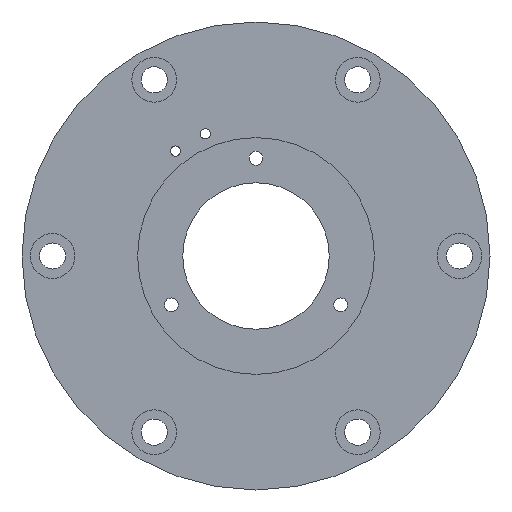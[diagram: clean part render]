
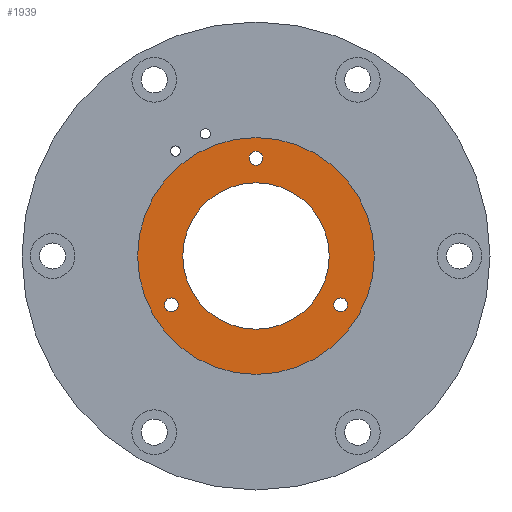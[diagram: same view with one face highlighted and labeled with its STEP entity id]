
A CAD part, left-side view. The second image highlights one B-rep face of the part: STEP entity #1939.
In plain terms, the highlighted planar face has unit normal (-1, 0, 0).
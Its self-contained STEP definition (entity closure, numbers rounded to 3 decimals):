
#32 = FACE_BOUND ( 'NONE', #65, .T. ) ;
#65 = EDGE_LOOP ( 'NONE', ( #1626, #678 ) ) ;
#72 = DIRECTION ( 'NONE',  ( 0., 0., 1. ) ) ;
#80 = DIRECTION ( 'NONE',  ( -1., 0., 0. ) ) ;
#88 = CARTESIAN_POINT ( 'NONE',  ( 1., 0., 0. ) ) ;
#92 = CARTESIAN_POINT ( 'NONE',  ( 1., 0., 29.1 ) ) ;
#136 = DIRECTION ( 'NONE',  ( 0., 0., 1. ) ) ;
#137 = AXIS2_PLACEMENT_3D ( 'NONE', #1530, #1550, #1405 ) ;
#154 = EDGE_CURVE ( 'NONE', #192, #1615, #389, .T. ) ;
#186 = FACE_BOUND ( 'NONE', #849, .T. ) ;
#192 = VERTEX_POINT ( 'NONE', #1805 ) ;
#209 = VERTEX_POINT ( 'NONE', #483 ) ;
#211 = CARTESIAN_POINT ( 'NONE',  ( 1., 0., -18. ) ) ;
#226 = DIRECTION ( 'NONE',  ( 1., 0., 0. ) ) ;
#240 = ORIENTED_EDGE ( 'NONE', *, *, #154, .T. ) ;
#242 = ORIENTED_EDGE ( 'NONE', *, *, #954, .T. ) ;
#256 = CARTESIAN_POINT ( 'NONE',  ( 1., 0., 18. ) ) ;
#309 = CARTESIAN_POINT ( 'NONE',  ( 1., 0., 24. ) ) ;
#341 = DIRECTION ( 'NONE',  ( 1., 0., 0. ) ) ;
#364 = CIRCLE ( 'NONE', #1742, 29.1 ) ;
#389 = CIRCLE ( 'NONE', #137, 1.7 ) ;
#410 = EDGE_CURVE ( 'NONE', #209, #1373, #1655, .T. ) ;
#426 = DIRECTION ( 'NONE',  ( 1., 0., 0. ) ) ;
#449 = VERTEX_POINT ( 'NONE', #256 ) ;
#467 = AXIS2_PLACEMENT_3D ( 'NONE', #88, #1064, #72 ) ;
#478 = VERTEX_POINT ( 'NONE', #1486 ) ;
#482 = CARTESIAN_POINT ( 'NONE',  ( 1., 0., 0. ) ) ;
#483 = CARTESIAN_POINT ( 'NONE',  ( 1., 20.785, -10.3 ) ) ;
#508 = EDGE_CURVE ( 'NONE', #966, #564, #1034, .T. ) ;
#537 = FACE_BOUND ( 'NONE', #1826, .T. ) ;
#564 = VERTEX_POINT ( 'NONE', #1370 ) ;
#567 = EDGE_CURVE ( 'NONE', #653, #449, #890, .T. ) ;
#595 = DIRECTION ( 'NONE',  ( 0., 0., -1. ) ) ;
#603 = CIRCLE ( 'NONE', #945, 1.7 ) ;
#642 = CIRCLE ( 'NONE', #467, 29.1 ) ;
#644 = EDGE_CURVE ( 'NONE', #478, #974, #364, .T. ) ;
#646 = EDGE_LOOP ( 'NONE', ( #242, #724 ) ) ;
#653 = VERTEX_POINT ( 'NONE', #211 ) ;
#678 = ORIENTED_EDGE ( 'NONE', *, *, #567, .F. ) ;
#682 = ORIENTED_EDGE ( 'NONE', *, *, #836, .T. ) ;
#724 = ORIENTED_EDGE ( 'NONE', *, *, #644, .T. ) ;
#819 = DIRECTION ( 'NONE',  ( -1., 0., 0. ) ) ;
#824 = EDGE_CURVE ( 'NONE', #449, #653, #1710, .T. ) ;
#833 = EDGE_CURVE ( 'NONE', #1373, #209, #1025, .T. ) ;
#835 = EDGE_CURVE ( 'NONE', #1615, #192, #603, .T. ) ;
#836 = EDGE_CURVE ( 'NONE', #564, #966, #1762, .T. ) ;
#837 = DIRECTION ( 'NONE',  ( 0., 0., -1. ) ) ;
#840 = ORIENTED_EDGE ( 'NONE', *, *, #410, .T. ) ;
#849 = EDGE_LOOP ( 'NONE', ( #1395, #240 ) ) ;
#876 = AXIS2_PLACEMENT_3D ( 'NONE', #1315, #226, #1186 ) ;
#890 = CIRCLE ( 'NONE', #1831, 18. ) ;
#934 = DIRECTION ( 'NONE',  ( 1., 0., 0. ) ) ;
#945 = AXIS2_PLACEMENT_3D ( 'NONE', #1758, #934, #1891 ) ;
#954 = EDGE_CURVE ( 'NONE', #974, #478, #642, .T. ) ;
#966 = VERTEX_POINT ( 'NONE', #1778 ) ;
#974 = VERTEX_POINT ( 'NONE', #92 ) ;
#983 = CARTESIAN_POINT ( 'NONE',  ( 1., 0., 0. ) ) ;
#985 = AXIS2_PLACEMENT_3D ( 'NONE', #1329, #426, #595 ) ;
#993 = AXIS2_PLACEMENT_3D ( 'NONE', #1070, #80, #1196 ) ;
#1010 = DIRECTION ( 'NONE',  ( 0., 0., -1. ) ) ;
#1019 = CARTESIAN_POINT ( 'NONE',  ( 1., 20.785, -13.7 ) ) ;
#1025 = CIRCLE ( 'NONE', #985, 1.7 ) ;
#1034 = CIRCLE ( 'NONE', #1875, 1.7 ) ;
#1064 = DIRECTION ( 'NONE',  ( -1., 0., 0. ) ) ;
#1070 = CARTESIAN_POINT ( 'NONE',  ( 1., 0., 0. ) ) ;
#1158 = ORIENTED_EDGE ( 'NONE', *, *, #833, .T. ) ;
#1186 = DIRECTION ( 'NONE',  ( 0., 0., -1. ) ) ;
#1196 = DIRECTION ( 'NONE',  ( 0., 0., 1. ) ) ;
#1207 = ORIENTED_EDGE ( 'NONE', *, *, #508, .T. ) ;
#1247 = DIRECTION ( 'NONE',  ( 1., 0., 0. ) ) ;
#1259 = DIRECTION ( 'NONE',  ( 0., 0., -1. ) ) ;
#1315 = CARTESIAN_POINT ( 'NONE',  ( 1., 0., 24. ) ) ;
#1329 = CARTESIAN_POINT ( 'NONE',  ( 1., 20.785, -12. ) ) ;
#1347 = EDGE_LOOP ( 'NONE', ( #1158, #840 ) ) ;
#1370 = CARTESIAN_POINT ( 'NONE',  ( 1., 0., 22.3 ) ) ;
#1373 = VERTEX_POINT ( 'NONE', #1019 ) ;
#1395 = ORIENTED_EDGE ( 'NONE', *, *, #835, .T. ) ;
#1405 = DIRECTION ( 'NONE',  ( 0., 0., -1. ) ) ;
#1449 = CARTESIAN_POINT ( 'NONE',  ( 1., -20.785, -13.7 ) ) ;
#1468 = DIRECTION ( 'NONE',  ( 0., 0., 1. ) ) ;
#1486 = CARTESIAN_POINT ( 'NONE',  ( 1., 0., -29.1 ) ) ;
#1488 = FACE_OUTER_BOUND ( 'NONE', #646, .T. ) ;
#1514 = FACE_BOUND ( 'NONE', #1347, .T. ) ;
#1526 = CARTESIAN_POINT ( 'NONE',  ( 1., 20.785, -12. ) ) ;
#1530 = CARTESIAN_POINT ( 'NONE',  ( 1., -20.785, -12. ) ) ;
#1536 = AXIS2_PLACEMENT_3D ( 'NONE', #1662, #341, #837 ) ;
#1550 = DIRECTION ( 'NONE',  ( 1., 0., 0. ) ) ;
#1615 = VERTEX_POINT ( 'NONE', #1449 ) ;
#1626 = ORIENTED_EDGE ( 'NONE', *, *, #824, .F. ) ;
#1655 = CIRCLE ( 'NONE', #1920, 1.7 ) ;
#1662 = CARTESIAN_POINT ( 'NONE',  ( 1., 18., 0. ) ) ;
#1687 = DIRECTION ( 'NONE',  ( 1., 0., 0. ) ) ;
#1710 = CIRCLE ( 'NONE', #993, 18. ) ;
#1735 = PLANE ( 'NONE',  #1536 ) ;
#1742 = AXIS2_PLACEMENT_3D ( 'NONE', #983, #1789, #1468 ) ;
#1758 = CARTESIAN_POINT ( 'NONE',  ( 1., -20.785, -12. ) ) ;
#1762 = CIRCLE ( 'NONE', #876, 1.7 ) ;
#1778 = CARTESIAN_POINT ( 'NONE',  ( 1., 0., 25.7 ) ) ;
#1789 = DIRECTION ( 'NONE',  ( -1., 0., 0. ) ) ;
#1805 = CARTESIAN_POINT ( 'NONE',  ( 1., -20.785, -10.3 ) ) ;
#1826 = EDGE_LOOP ( 'NONE', ( #682, #1207 ) ) ;
#1831 = AXIS2_PLACEMENT_3D ( 'NONE', #482, #819, #136 ) ;
#1875 = AXIS2_PLACEMENT_3D ( 'NONE', #309, #1247, #1010 ) ;
#1891 = DIRECTION ( 'NONE',  ( 0., 0., -1. ) ) ;
#1920 = AXIS2_PLACEMENT_3D ( 'NONE', #1526, #1687, #1259 ) ;
#1939 = ADVANCED_FACE ( 'NONE', ( #1514, #186, #537, #32, #1488 ), #1735, .F. ) ;
